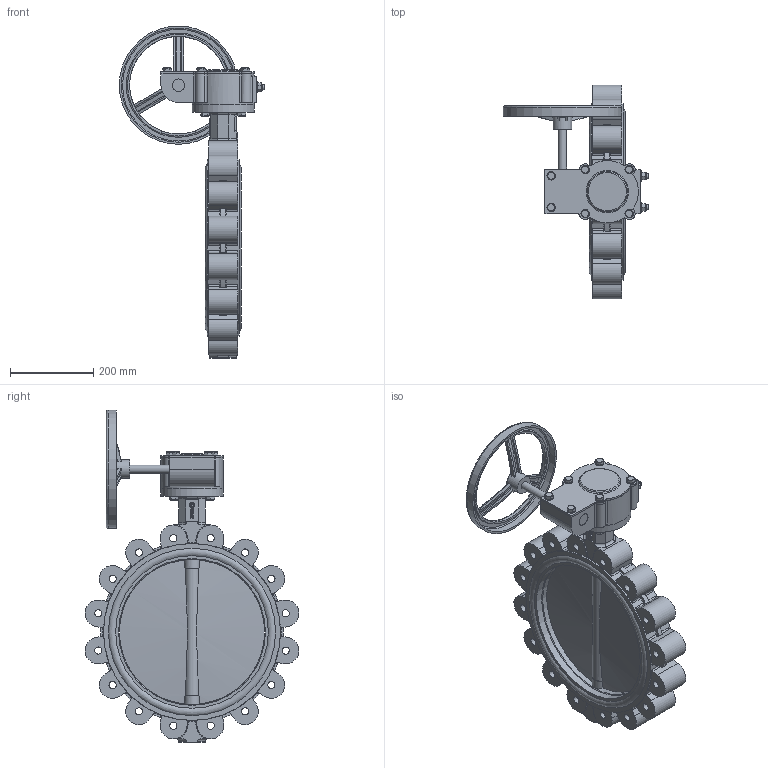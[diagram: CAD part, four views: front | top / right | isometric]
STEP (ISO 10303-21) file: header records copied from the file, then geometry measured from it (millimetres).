
FILE_DESCRIPTION(('STEP AP242'), '1');
FILE_NAME('Ïîâîðîòíûé çàòâîð ïîä ýëåêòðîïðèâîä', '', ('UNSPECIFIED'), ('UNSPECIFIED'), 'C3D Converter', 'C3D Toolkit', '');
FILE_SCHEMA(('AP242_MANAGED_MODEL_BASED_3D_ENGINEERING_MIM_LF { 1 0 10303 442 1 1 4 }'));
Length unit declared in the file: millimetre
Products named in the file (16): П
Assembly tree (36 placements, depth 3):
  (unnamed)
    (unnamed)
    П  x2
    (unnamed)
    (unnamed)
    (unnamed)
    (unnamed)
      (unnamed)
      (unnamed)
      (unnamed)
      (unnamed)
      (unnamed)  x6
      (unnamed)  x6
      (unnamed)  x2
      (unnamed)  x2
      (unnamed)
    (unnamed)  x4
    (unnamed)  x4
Bounding box: 350.5 x 515.15 x 799.5 mm (x, y, z)
Volume: 11823135.4 mm3; surface area: 1566806.7 mm2
Topology: 35 solids, 35 shells, 1182 faces, 2904 edges, 1850 vertices
Faces by surface type: plane 475, cylinder 324, extrusion 157, torus 126, bspline 52, cone 44, sphere 4
Full cylindrical faces by diameter (mm): 6 x2, 10.647 x2, 11.421 x1, 12 x30, 13 x10, 14 x4, 17.294 x16, 20 x13, 27 x5, 29.7 x1, 30 x2, 37.05 x4, 38.184 x5, 45 x1, 150 x2, 235 x1, 245 x1, 275 x1, 285 x1, 350 x1, 353.5 x2, 367.5 x2, 385.083 x4, 402.667 x4, 426 x2
Entity records: 44809 total; most frequent: CARTESIAN_POINT 18083, ORIENTED_EDGE 4864, DIRECTION 4441, EDGE_CURVE 2432, VERTEX_POINT 1627, AXIS2_PLACEMENT_3D 1617, EDGE_LOOP 1245, VECTOR 1207
